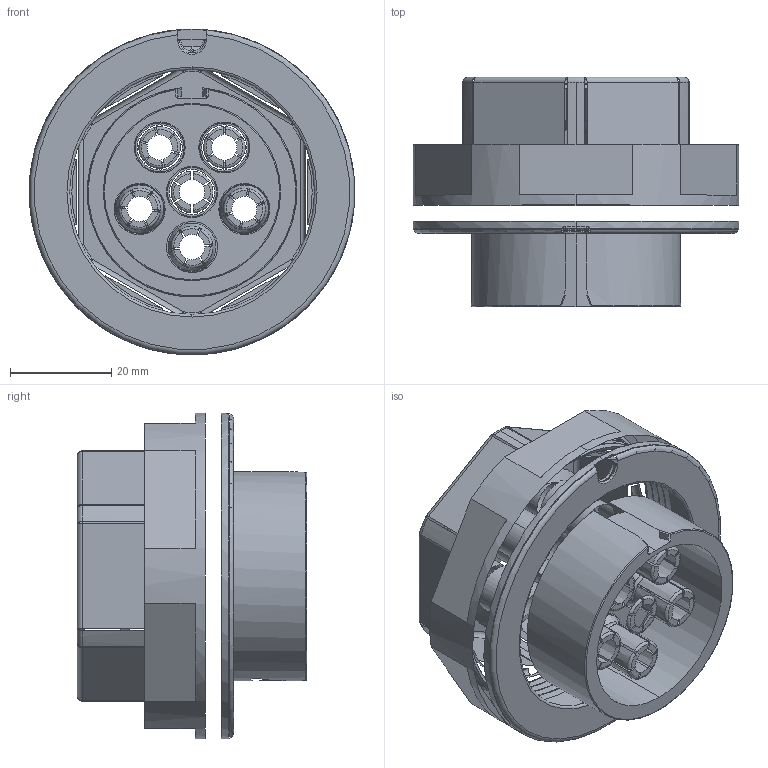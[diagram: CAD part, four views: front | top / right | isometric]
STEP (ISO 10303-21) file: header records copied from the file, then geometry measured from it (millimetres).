
FILE_DESCRIPTION((''),'2;1');
FILE_NAME('LCN-EC8X6-BHM_ASM','2025-08-01T10:51:55',('Neil'),(''),'CREO PARAMETRIC BY PTC INC, 2023134','CREO PARAMETRIC BY PTC INC, 2023134','');
FILE_SCHEMA(('CONFIG_CONTROL_DESIGN'));
Length unit declared in the file: millimetre
Products named in the file (1): LCN-EC8X6-BHM_ASM
Bounding box: 64.5 x 45.45 x 64.5 mm (x, y, z)
Surface area: 19902.8 mm2 (no closed solid volume)
Topology: 0 solids, 52 shells, 229 faces, 869 edges, 673 vertices
Faces by surface type: plane 76, torus 63, cone 43, cylinder 41, bspline 6
Entity records: 15354 total; most frequent: CARTESIAN_POINT 8322, DIRECTION 1557, ORIENTED_EDGE 1135, EDGE_CURVE 869, VERTEX_POINT 673, AXIS2_PLACEMENT_3D 642, CIRCLE 418, VECTOR 273
